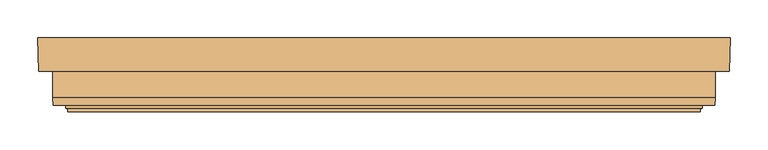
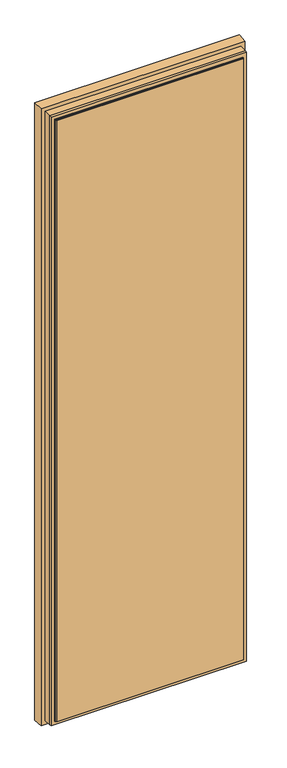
"""IFC4 building model written with IfcOpenShell, lengths in millimetres: door geometry, 32_IM_deurpaneel_TDG : 32_IM_deurpaneel_TDG_L."""

from ifc_helpers import new_model, si_unit, frame, origin, place, context, project, spatial, polyline, outline, extrude, faceted_brep, source, transform, mapped, element, save


def door_3c762eaf(model_context):
    return source(origin(), model_context, "Body", "SolidModel", [
        extrude(outline(polyline([(421.0, 40.9940447), (-421.0, 40.9940447), (-421.0, 48.9940447), (421.0, 48.9940447), (421.0, 40.9940447)])), frame((0.0, 0.0, 50.0), z_axis=(0.0, 0.0, 1.0), x_axis=(1.0, 0.0, 0.0)), (0.0, 0.0, 1.0), 2858.0),
        extrude(outline(polyline([(421.0, -40.9940447), (421.0, -48.9940447), (-421.0, -48.9940447), (-421.0, -40.9940447), (421.0, -40.9940447)])), frame((0.0, 0.0, 50.0), z_axis=(0.0, 0.0, 1.0), x_axis=(1.0, 0.0, 0.0)), (0.0, 0.0, 1.0), 2858.0),
        faceted_brep([(422.0, 41.0, 2909.0), (422.0, 50.0, 2909.0), (422.0, 50.0, 49.0), (422.0, 41.0, 49.0), (-422.0, 41.0, 49.0), (-422.0, 41.0, 2909.0), (407.0, 41.0, 2894.0), (-407.0, 41.0, 2894.0), (-407.0, 41.0, 64.0), (407.0, 41.0, 64.0), (-422.0, 50.0, 49.0), (461.0, 50.0, 10.0), (-461.0, 50.0, 10.0), (-461.0, 50.0, 2948.0), (461.0, 50.0, 2948.0), (-422.0, 50.0, 2909.0), (407.0, -40.9940447, 2894.0), (407.0, -40.9940447, 64.0), (422.0, -40.9940447, 2909.0), (-422.0, -40.9940447, 2909.0), (-422.0, -40.9940447, 49.0), (422.0, -40.9940447, 49.0), (-407.0, -40.9940447, 64.0), (-407.0, -40.9940447, 2894.0), (422.0, -43.9941578, 2909.0), (422.0, -43.9941578, 49.0), (423.5, -43.9941612, 2910.5), (-423.5, -43.9941612, 2910.5), (-423.5, -43.987799, 47.5), (423.5, -43.987799, 47.5), (-422.0, -43.9878023, 49.0), (-422.0, -43.9941578, 2909.0), (423.5, -39.9941476, 2910.5), (423.5, -39.9941476, 47.5), (439.9628308, -39.9941891, 2926.9628308), (-439.9628308, -39.9941891, 2926.9628308), (-439.9628308, -39.9868865, 31.0371692), (439.9628308, -39.9868865, 31.0371692), (-423.5, -39.986928, 47.5), (-423.5, -39.9941476, 2910.5), (440.9628306, -29.9941936, 2927.9628306), (440.9628306, -29.9941936, 30.0371694), (440.9628306, 5.0058067, 2927.9628306), (440.9628306, 5.0058067, 30.0371694), (-440.9628306, -29.9941936, 30.0371694), (459.4628361, 5.0057602, 2946.4628361), (-459.4628361, 5.0057602, 2946.4628361), (-459.4628361, 5.0131323, 11.5371639), (459.4628361, 5.0131323, 11.5371639), (-440.9628306, 5.0130859, 30.0371694), (-440.9628306, 5.0058067, 2927.9628306), (-440.9628306, -29.9941936, 2927.9628306)], [[[0, 1, 2, 3]], [[3, 4, 5, 0], [6, 7, 8, 9]], [[3, 2, 10, 4]], [[11, 12, 13, 14], [1, 15, 10, 2]], [[16, 6, 9, 17]], [[18, 19, 20, 21], [17, 22, 23, 16]], [[17, 9, 8, 22]], [[24, 18, 21, 25]], [[26, 27, 28, 29], [25, 30, 31, 24]], [[25, 21, 20, 30]], [[32, 26, 29, 33]], [[34, 35, 36, 37], [33, 38, 39, 32]], [[33, 29, 28, 38]], [[40, 34, 37, 41]], [[42, 40, 41, 43]], [[41, 37, 36, 44]], [[45, 46, 47, 48], [43, 49, 50, 42]], [[43, 41, 44, 49]], [[14, 45, 48, 11]], [[11, 48, 47, 12]], [[4, 10, 15, 5]], [[22, 8, 7, 23]], [[30, 20, 19, 31]], [[38, 28, 27, 39]], [[44, 36, 35, 51]], [[49, 44, 51, 50]], [[12, 47, 46, 13]], [[5, 15, 1, 0]], [[23, 7, 6, 16]], [[31, 19, 18, 24]], [[39, 27, 26, 32]], [[51, 35, 34, 40]], [[50, 51, 40, 42]], [[13, 46, 45, 14]]]),
    ])


if __name__ == "__main__":
    model = new_model("IFC4")
    model_context = context("Model", 3, world=origin())
    ifc_project = project(units=[si_unit("LENGTHUNIT", "METRE", prefix="MILLI")], contexts=[model_context])
    site = spatial("IfcSite", under=ifc_project)
    building = spatial("IfcBuilding", under=site)
    placement = place(None, origin())
    door_shape = door_3c762eaf(model_context)
    element("IfcDoor", 1, ObjectType="32_IM_deurpaneel_TDG : 32_IM_deurpaneel_TDG_L", at=placement, inside=building, context=model_context, shape_type="MappedRepresentation", body=[
        mapped(door_shape, transform((0.0, 0.0, 0.0), x_axis=(1.0, 0.0, 0.0), y_axis=(0.0, 1.0, 0.0), z_axis=(0.0, 0.0, 1.0))),
    ])
    save(model, "model.ifc")
